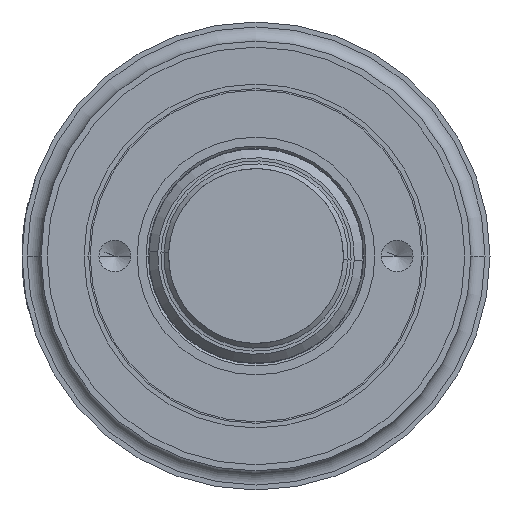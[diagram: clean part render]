
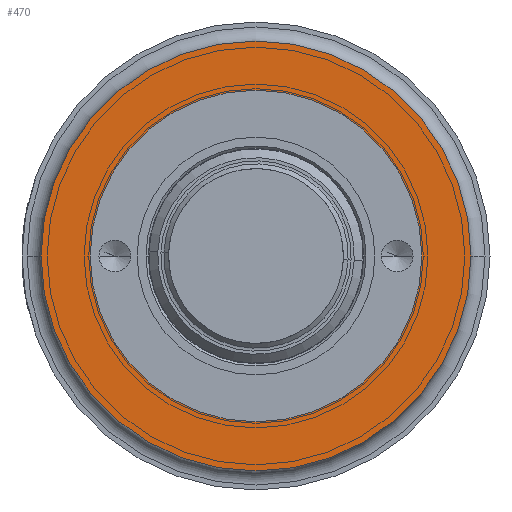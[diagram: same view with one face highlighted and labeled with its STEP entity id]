
A CAD part, front view. The second image highlights one B-rep face of the part: STEP entity #470.
In plain terms, the highlighted planar face has unit normal (0, -1, 0).
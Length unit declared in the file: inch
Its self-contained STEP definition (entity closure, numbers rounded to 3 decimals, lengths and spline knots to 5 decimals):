
#1=CARTESIAN_POINT('',(0.,-7.0625,0.));
#2=DIRECTION('',(0.,1.,0.));
#3=DIRECTION('',(-1.,0.,0.));
#4=AXIS2_PLACEMENT_3D('',#1,#2,#3);
#6=CARTESIAN_POINT('',(0.,-7.0625,0.));
#7=DIRECTION('',(0.,1.,0.));
#8=DIRECTION('',(1.,0.,0.));
#9=AXIS2_PLACEMENT_3D('',#6,#7,#8);
#11=CARTESIAN_POINT('',(0.,-7.0625,0.));
#12=DIRECTION('',(0.,1.,0.));
#13=DIRECTION('',(-1.,0.,0.));
#14=AXIS2_PLACEMENT_3D('',#11,#12,#13);
#16=CARTESIAN_POINT('',(0.,-7.0625,0.));
#17=DIRECTION('',(0.,1.,0.));
#18=DIRECTION('',(1.,0.,0.));
#19=AXIS2_PLACEMENT_3D('',#16,#17,#18);
#389=CARTESIAN_POINT('',(-1.37795,-7.0625,0.));
#390=CARTESIAN_POINT('',(1.37795,-7.0625,0.));
#391=VERTEX_POINT('',#389);
#392=VERTEX_POINT('',#390);
#393=CARTESIAN_POINT('',(-1.06299,-7.0625,0.));
#394=CARTESIAN_POINT('',(1.06299,-7.0625,0.));
#395=VERTEX_POINT('',#393);
#396=VERTEX_POINT('',#394);
#453=CARTESIAN_POINT('',(0.,-7.0625,0.));
#454=DIRECTION('',(0.,1.,0.));
#455=DIRECTION('',(1.,0.,0.));
#456=AXIS2_PLACEMENT_3D('',#453,#454,#455);
#457=PLANE('',#456);
#459=ORIENTED_EDGE('',*,*,#458,.T.);
#461=ORIENTED_EDGE('',*,*,#460,.T.);
#462=EDGE_LOOP('',(#459,#461));
#463=FACE_OUTER_BOUND('',#462,.F.);
#465=ORIENTED_EDGE('',*,*,#464,.F.);
#467=ORIENTED_EDGE('',*,*,#466,.F.);
#468=EDGE_LOOP('',(#465,#467));
#469=FACE_BOUND('',#468,.F.);
#470=ADVANCED_FACE('',(#463,#469),#457,.F.);
#5=CIRCLE('',#4,1.37795);
#10=CIRCLE('',#9,1.37795);
#15=CIRCLE('',#14,1.06299);
#20=CIRCLE('',#19,1.06299);
#458=EDGE_CURVE('',#391,#392,#5,.T.);
#460=EDGE_CURVE('',#392,#391,#10,.T.);
#464=EDGE_CURVE('',#395,#396,#15,.T.);
#466=EDGE_CURVE('',#396,#395,#20,.T.);
